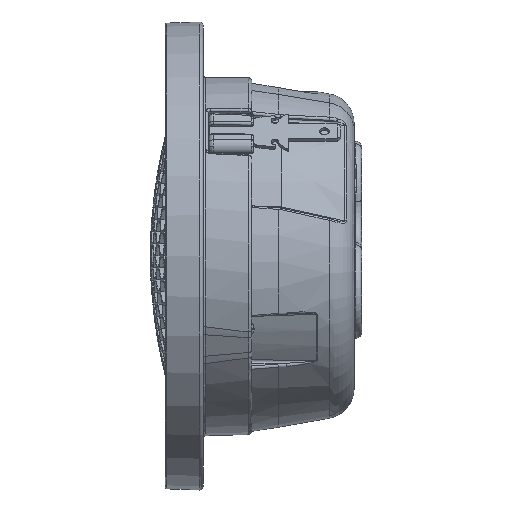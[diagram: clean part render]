
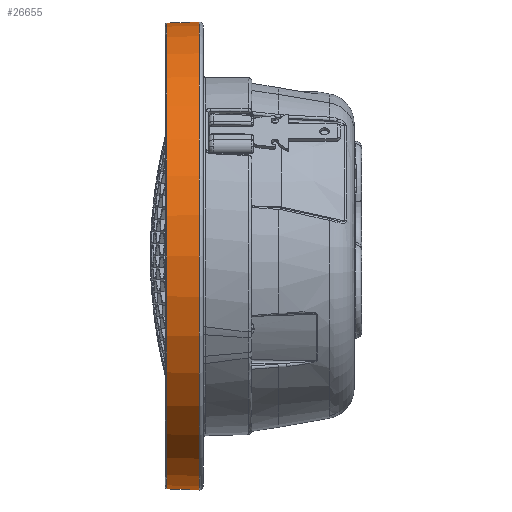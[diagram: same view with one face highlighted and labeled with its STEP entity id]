
A CAD part, left-side view. The second image highlights one B-rep face of the part: STEP entity #26655.
In plain terms, the highlighted conical face has half-angle 2 degrees and reference radius 31.125 mm.
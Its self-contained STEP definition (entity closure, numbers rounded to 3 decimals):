
#308 = ORIENTED_EDGE ( 'NONE', *, *, #74813, .T. ) ;
#835 = CIRCLE ( 'NONE', #70273, 31.107 ) ;
#861 = AXIS2_PLACEMENT_3D ( 'NONE', #78533, #28635, #53592 ) ;
#1023 = CARTESIAN_POINT ( 'NONE',  ( 0., 20.087, 31.125 ) ) ;
#3688 = FACE_OUTER_BOUND ( 'NONE', #34852, .T. ) ;
#5965 = AXIS2_PLACEMENT_3D ( 'NONE', #10827, #10067, #23370 ) ;
#6564 = DIRECTION ( 'NONE',  ( 0., 0., -1. ) ) ;
#7220 = CONICAL_SURFACE ( 'NONE', #861, 31.125, 0.035 ) ;
#7833 = LINE ( 'NONE', #1023, #75466 ) ;
#9215 = ORIENTED_EDGE ( 'NONE', *, *, #76280, .T. ) ;
#10067 = DIRECTION ( 'NONE',  ( 0., -1., 0. ) ) ;
#10827 = CARTESIAN_POINT ( 'NONE',  ( 0., 24.888, 0. ) ) ;
#15813 = DIRECTION ( 'NONE',  ( 0., -0.999, -0.035 ) ) ;
#21764 = VERTEX_POINT ( 'NONE', #51829 ) ;
#23370 = DIRECTION ( 'NONE',  ( 0., 0., 1. ) ) ;
#26655 = ADVANCED_FACE ( 'NONE', ( #3688 ), #7220, .T. ) ;
#28635 = DIRECTION ( 'NONE',  ( 0., -1., 0. ) ) ;
#34852 = EDGE_LOOP ( 'NONE', ( #44180, #9215, #308, #38561 ) ) ;
#35810 = LINE ( 'NONE', #46033, #43328 ) ;
#38561 = ORIENTED_EDGE ( 'NONE', *, *, #45988, .F. ) ;
#43328 = VECTOR ( 'NONE', #15813, 1000. ) ;
#43656 = CARTESIAN_POINT ( 'NONE',  ( 0., 20.599, -31.107 ) ) ;
#44097 = DIRECTION ( 'NONE',  ( 0., -0.999, 0.035 ) ) ;
#44180 = ORIENTED_EDGE ( 'NONE', *, *, #50514, .T. ) ;
#45797 = CARTESIAN_POINT ( 'NONE',  ( 0., 24.888, -30.957 ) ) ;
#45988 = EDGE_CURVE ( 'NONE', #21764, #56076, #7833, .T. ) ;
#46033 = CARTESIAN_POINT ( 'NONE',  ( 0., 20.087, -31.125 ) ) ;
#50514 = EDGE_CURVE ( 'NONE', #21764, #77476, #64115, .T. ) ;
#51829 = CARTESIAN_POINT ( 'NONE',  ( 0., 24.888, 30.957 ) ) ;
#52357 = CARTESIAN_POINT ( 'NONE',  ( 0., 20.599, 0. ) ) ;
#53592 = DIRECTION ( 'NONE',  ( 0., 0., 1. ) ) ;
#56076 = VERTEX_POINT ( 'NONE', #61958 ) ;
#58561 = VERTEX_POINT ( 'NONE', #43656 ) ;
#61958 = CARTESIAN_POINT ( 'NONE',  ( 0., 20.599, 31.107 ) ) ;
#64115 = CIRCLE ( 'NONE', #5965, 30.957 ) ;
#70273 = AXIS2_PLACEMENT_3D ( 'NONE', #52357, #76119, #6564 ) ;
#74813 = EDGE_CURVE ( 'NONE', #58561, #56076, #835, .T. ) ;
#75466 = VECTOR ( 'NONE', #44097, 1000. ) ;
#76119 = DIRECTION ( 'NONE',  ( 0., 1., 0. ) ) ;
#76280 = EDGE_CURVE ( 'NONE', #77476, #58561, #35810, .T. ) ;
#77476 = VERTEX_POINT ( 'NONE', #45797 ) ;
#78533 = CARTESIAN_POINT ( 'NONE',  ( 0., 20.087, 0. ) ) ;
